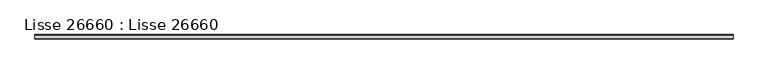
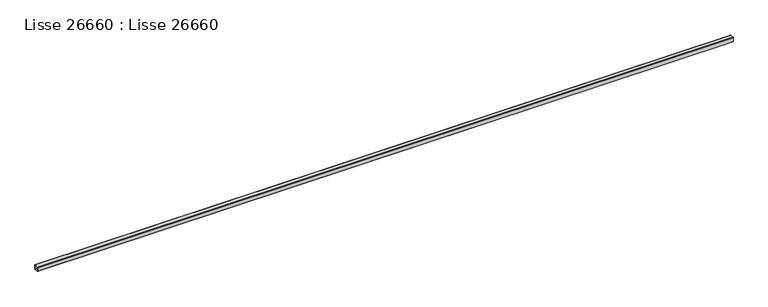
"""IFC4 building model written with IfcOpenShell, lengths in millimetres: beam geometry, Lisse 26660 : Lisse 26660."""

import ifcopenshell
import ifcopenshell.guid

model = None  # the IFC model being written
_history = None  # IfcOwnerHistory: only IFC2X3 demands one
_inside = {}  # id of a spatial element -> (the spatial element, [elements in it])
_under = {}  # id of a project, library or spatial element -> (it, [spatial elements below it])
_declared = {}  # id of a project -> (the project, [libraries it declares])
_typed = {}  # id of a type object -> (the type object, [elements of that type])
_made_of = {}  # id of a material, layer set ... -> (it, [elements and type objects made of it])


def new_model(schema):
    """Start an empty IFC model of exactly this schema.

    Asked for "IFC4X3", IfcOpenShell would pick the latest addendum, in which some entities
    have other attributes; the version numbers below select the first issue.
    IFC2X3 requires an IfcOwnerHistory on every rooted entity: one is made here for all.
    """
    global model, _history
    if schema == "IFC4X3":
        model = ifcopenshell.file(schema_version=(4, 3, 0, 0))
    else:
        model = ifcopenshell.file(schema=schema)
    _inside.clear()
    _under.clear()
    _declared.clear()
    _typed.clear()
    _made_of.clear()
    _history = None
    if model.schema == "IFC2X3":
        org = make("IfcOrganization", Name="unknown")
        user = make(
            "IfcPersonAndOrganization",
            ThePerson=make("IfcPerson", FamilyName="unknown"),
            TheOrganization=org,
        )
        app = make(
            "IfcApplication",
            ApplicationDeveloper=org,
            Version="unknown",
            ApplicationFullName="unknown",
            ApplicationIdentifier="unknown",
        )
        _history = make(
            "IfcOwnerHistory",
            OwningUser=user,
            OwningApplication=app,
            ChangeAction="ADDED",
            CreationDate=0,
        )
    return model


def make(cls, **values):
    """One entity of the class cls with the attributes given. An attribute that is None is left unset."""
    return model.create_entity(
        cls, **{name: value for name, value in values.items() if value is not None}
    )


def rooted(cls, **values):
    """An entity with a GlobalId (a new one), such as an element, a storey or a relation."""
    return make(cls, GlobalId=ifcopenshell.guid.new(), OwnerHistory=_history, **values)


def si_unit(unit_type, name, prefix=None):
    """IfcSIUnit, for example si_unit("LENGTHUNIT", "METRE", prefix="MILLI")."""
    return make("IfcSIUnit", UnitType=unit_type, Prefix=prefix, Name=name)


def assignment(units):
    """IfcUnitAssignment: the units of a project."""
    return None if units is None else make("IfcUnitAssignment", Units=units)


def point(xyz):
    """IfcCartesianPoint."""
    return None if xyz is None else make("IfcCartesianPoint", Coordinates=xyz)


def direction(xyz):
    """IfcDirection."""
    return None if xyz is None else make("IfcDirection", DirectionRatios=xyz)


def frame(location, z_axis=None, x_axis=None):
    """IfcAxis2Placement3D, a coordinate frame: its origin and axes. An axis left out is left unset."""
    return make(
        "IfcAxis2Placement3D",
        Location=point(location),
        Axis=direction(z_axis),
        RefDirection=direction(x_axis),
    )


def origin():
    """The frame at (0, 0, 0) with its axes left unset."""
    return frame((0.0, 0.0, 0.0))


def place(relative_to, where):
    """IfcLocalPlacement: puts the frame where relative to a parent placement (None: the world)."""
    return make(
        "IfcLocalPlacement", PlacementRelTo=relative_to, RelativePlacement=where
    )


def context(
    kind, dimensions, precision=None, world=None, true_north=None, identifier=None
):
    """IfcGeometricRepresentationContext, for example the 3D "Model" context."""
    return make(
        "IfcGeometricRepresentationContext",
        ContextIdentifier=identifier,
        ContextType=kind,
        CoordinateSpaceDimension=dimensions,
        Precision=precision,
        WorldCoordinateSystem=world,
        TrueNorth=true_north,
    )


def project(units=None, contexts=None):
    """IfcProject with its units and contexts."""
    return rooted(
        "IfcProject",
        Name="project",
        RepresentationContexts=contexts,
        UnitsInContext=assignment(units),
    )


def spatial(cls, under=None, at=None, **own):
    """A site, building, storey or space (cls), placed at a placement, below another one or the project."""
    s = rooted(cls, ObjectPlacement=at, **own)
    if under is not None:
        _under.setdefault(under.id(), (under, []))[1].append(s)
    return s


def polyline(points):
    """IfcPolyline through the points."""
    return make("IfcPolyline", Points=[point(p) for p in points])


def outline(outer, holes=None, kind="AREA"):
    """IfcArbitraryClosedProfileDef: a profile drawn as a closed curve; with holes, ...WithVoids."""
    if holes is None:
        return make("IfcArbitraryClosedProfileDef", ProfileType=kind, OuterCurve=outer)
    return make(
        "IfcArbitraryProfileDefWithVoids",
        ProfileType=kind,
        OuterCurve=outer,
        InnerCurves=holes,
    )


def extrude(swept, where, along, depth):
    """IfcExtrudedAreaSolid: the profile swept, set in the frame where, extruded along a direction by depth."""
    return make(
        "IfcExtrudedAreaSolid",
        SweptArea=swept,
        Position=where,
        ExtrudedDirection=direction(along),
        Depth=depth,
    )


def shape(context_of_items, identifier, shape_type, items):
    """IfcShapeRepresentation: the items that make up one representation, for example the "Body"."""
    return make(
        "IfcShapeRepresentation",
        ContextOfItems=context_of_items,
        RepresentationIdentifier=identifier,
        RepresentationType=shape_type,
        Items=items,
    )


def source(mapping_origin, context_of_items, identifier, shape_type, items):
    """IfcRepresentationMap: a shape defined once, which mapped items show again and again."""
    return make(
        "IfcRepresentationMap",
        MappingOrigin=mapping_origin,
        MappedRepresentation=shape(context_of_items, identifier, shape_type, items),
    )


def transform(
    local_origin,
    x_axis=None,
    y_axis=None,
    z_axis=None,
    scale=None,
    scale2=None,
    scale3=None,
    uniform=True,
):
    """IfcCartesianTransformationOperator3D, or its non-uniform kind. x_axis, y_axis, z_axis: its Axis1, 2, 3."""
    if uniform:
        return make(
            "IfcCartesianTransformationOperator3D",
            Axis1=direction(x_axis),
            Axis2=direction(y_axis),
            LocalOrigin=point(local_origin),
            Scale=scale,
            Axis3=direction(z_axis),
        )
    return make(
        "IfcCartesianTransformationOperator3DnonUniform",
        Axis1=direction(x_axis),
        Axis2=direction(y_axis),
        LocalOrigin=point(local_origin),
        Scale=scale,
        Axis3=direction(z_axis),
        Scale2=scale2,
        Scale3=scale3,
    )


def mapped(mapping_source, mapping_target):
    """IfcMappedItem: shows the shape of a source again, moved by a transform."""
    return make(
        "IfcMappedItem", MappingSource=mapping_source, MappingTarget=mapping_target
    )


def made_of(thing, what):
    """Note that an element or type object is made of a material, layer set ...; save() writes the relation."""
    if what is not None:
        _made_of.setdefault(what.id(), (what, []))[1].append(thing)
    return thing


def element(
    cls,
    number,
    at=None,
    inside=None,
    cuts=None,
    type_object=None,
    material=None,
    context=None,
    identifier="Body",
    shape_type=None,
    held_by="IfcProductDefinitionShape",
    body=None,
    shapes=None,
    **own,
):
    """One element of the class cls, such as IfcWall. Its Tag is "e" and its number.

    at: its placement. inside: the storey or other place that contains it. cuts: it is an
    opening in that element (IfcRelVoidsElement). A single representation is given by context,
    identifier, shape_type and body (its items); several are given by shapes. held_by: the class
    of the entity that holds the representations. save() writes the other relations.
    """
    e = rooted(cls, Tag="e%d" % number, ObjectPlacement=at, **own)
    if body is not None:
        shapes = [shape(context, identifier, shape_type, body)]
    if shapes is not None:
        e.Representation = make(held_by, Representations=shapes)
    if inside is not None:
        _inside.setdefault(inside.id(), (inside, []))[1].append(e)
    if cuts is not None:
        rooted(
            "IfcRelVoidsElement", RelatingBuildingElement=cuts, RelatedOpeningElement=e
        )
    if type_object is not None:
        _typed.setdefault(type_object.id(), (type_object, []))[1].append(e)
    return made_of(e, material)


def aggregate(whole, parts):
    """IfcRelAggregates: a whole, such as a stair, and the parts it consists of."""
    return rooted("IfcRelAggregates", RelatingObject=whole, RelatedObjects=parts)


def save(model, path):
    """Write the relations noted so far, then the file.

    IfcRelAggregates (storeys below a building ...), IfcRelContainedInSpatialStructure (elements
    in a storey), IfcRelDefinesByType, IfcRelAssociatesMaterial and IfcRelDeclares: one each for
    every whole, place, type object, material and project.
    """
    for whole, parts in _under.values():
        aggregate(whole, parts)
    for where, things in _inside.values():
        rooted(
            "IfcRelContainedInSpatialStructure",
            RelatedElements=things,
            RelatingStructure=where,
        )
    for kind, things in _typed.values():
        rooted("IfcRelDefinesByType", RelatedObjects=things, RelatingType=kind)
    for what, things in _made_of.values():
        rooted("IfcRelAssociatesMaterial", RelatedObjects=things, RelatingMaterial=what)
    for by, libraries in _declared.values():
        rooted("IfcRelDeclares", RelatingContext=by, RelatedDefinitions=libraries)
    model.write(path)


def lisse_26660_lisse_26660_709af836(model_context):
    return source(origin(), model_context, "Body", "SweptSolid", [
        extrude(outline(polyline([(-23513.5, 11180.0), (-23425.5, 11180.0), (-23422.5, 11179.1961524), (-23420.3038476, 11177.0), (-23419.5, 11174.0), (-23419.5, 11086.0), (-23420.3038476, 11083.0), (-23422.5, 11080.8038476), (-23425.5, 11080.0), (-23513.5, 11080.0), (-23516.5, 11080.8038476), (-23518.6961524, 11083.0), (-23519.5, 11086.0), (-23519.5, 11174.0), (-23518.6961524, 11177.0), (-23516.5, 11179.1961524), (-23513.5, 11180.0)]), holes=[polyline([(-23427.5, 11084.0), (-23425.5, 11084.5358984), (-23424.0358984, 11086.0), (-23423.5, 11088.0), (-23423.5, 11172.0), (-23424.0358984, 11174.0), (-23425.5, 11175.4641016), (-23427.5, 11176.0), (-23511.5, 11176.0), (-23513.5, 11175.4641016), (-23514.9641016, 11174.0), (-23515.5, 11172.0), (-23515.5, 11088.0), (-23514.9641016, 11086.0), (-23513.5, 11084.5358984), (-23511.5, 11084.0), (-23427.5, 11084.0)])]), frame((-40.0000001, 0.0, 0.0), z_axis=(1.0, 0.0, 0.0), x_axis=(0.0, 1.0, 0.0)), (0.0, 0.0, 1.0), 15430.0),
    ])


if __name__ == "__main__":
    model = new_model("IFC4")
    model_context = context("Model", 3, world=origin())
    ifc_project = project(units=[si_unit("LENGTHUNIT", "METRE", prefix="MILLI")], contexts=[model_context])
    site = spatial("IfcSite", under=ifc_project)
    building = spatial("IfcBuilding", under=site)
    placement = place(None, origin())
    lisse_26660_lisse_26660_shape = lisse_26660_lisse_26660_709af836(model_context)
    element("IfcBeam", 1, ObjectType="Lisse 26660 : Lisse 26660", at=placement, inside=building, context=model_context, shape_type="MappedRepresentation", body=[
        mapped(lisse_26660_lisse_26660_shape, transform((0.0, 0.0, 0.0), x_axis=(1.0, 0.0, 0.0), y_axis=(0.0, 1.0, 0.0), z_axis=(0.0, 0.0, 1.0))),
    ])
    save(model, "model.ifc")
